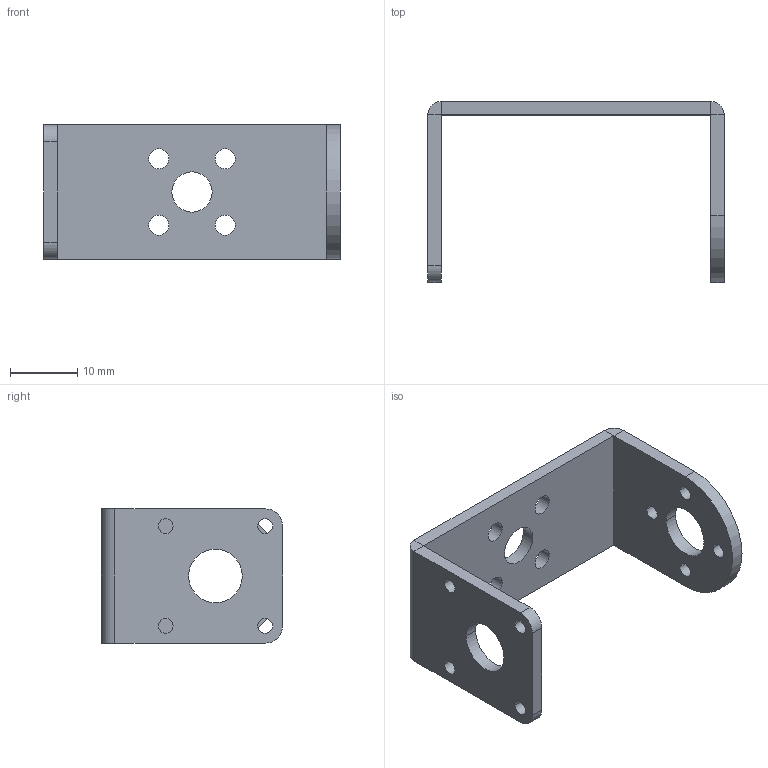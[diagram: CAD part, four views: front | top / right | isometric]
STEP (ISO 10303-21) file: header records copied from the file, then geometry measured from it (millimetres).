
FILE_DESCRIPTION((''),'2;1');
FILE_NAME('WJ-ZJ00-0009-FK-US-002-20220328','2022-03-28T',('WUSALT01'),(''),'PRO/ENGINEER BY PARAMETRIC TECHNOLOGY CORPORATION, 2008380','PRO/ENGINEER BY PARAMETRIC TECHNOLOGY CORPORATION, 2008380','');
FILE_SCHEMA(('AUTOMOTIVE_DESIGN_CC2 { 1 2 10303 214 -1 1 5 2 }'));
Length unit declared in the file: millimetre
Products named in the file (1): WJ-ZJ00-0009-FK-US-002-20220328
Bounding box: 44.2 x 27 x 20 mm (x, y, z)
Volume: 3267.5 mm3; surface area: 4023.6 mm2
Topology: 1 solids, 1 shells, 52 faces, 134 edges, 84 vertices
Faces by surface type: cylinder 35, plane 17
Entity records: 1680 total; most frequent: DIRECTION 308, CARTESIAN_POINT 270, ORIENTED_EDGE 268, EDGE_CURVE 134, AXIS2_PLACEMENT_3D 122, VERTEX_POINT 84, EDGE_LOOP 82, CIRCLE 70
